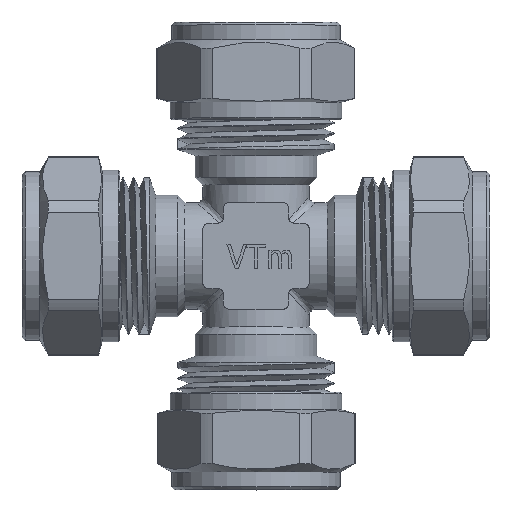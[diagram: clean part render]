
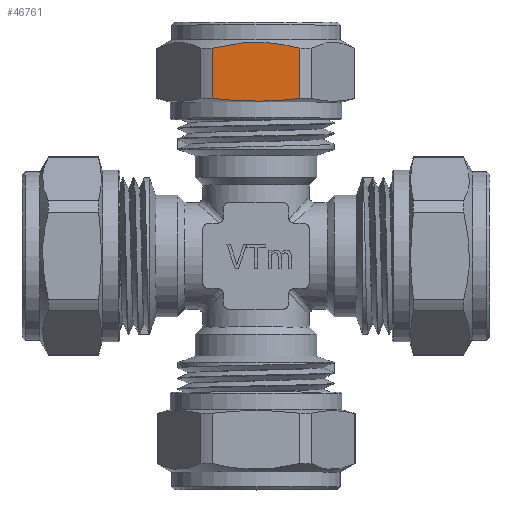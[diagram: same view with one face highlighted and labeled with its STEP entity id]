
A CAD part, top view. The second image highlights one B-rep face of the part: STEP entity #46761.
In plain terms, the highlighted planar face has unit normal (0, 0, 1).
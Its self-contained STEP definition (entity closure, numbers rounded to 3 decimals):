
#179=(
BOUNDED_CURVE()
B_SPLINE_CURVE(2,(#93856,#93857,#93858),.UNSPECIFIED.,.F.,.F.)
B_SPLINE_CURVE_WITH_KNOTS((3,3),(0.,1.489),.UNSPECIFIED.)
CURVE()
GEOMETRIC_REPRESENTATION_ITEM()
RATIONAL_B_SPLINE_CURVE((1.,1.114,1.))
REPRESENTATION_ITEM('')
);
#180=(
BOUNDED_CURVE()
B_SPLINE_CURVE(2,(#93862,#93863,#93864),.UNSPECIFIED.,.F.,.F.)
B_SPLINE_CURVE_WITH_KNOTS((3,3),(0.,1.479),.UNSPECIFIED.)
CURVE()
GEOMETRIC_REPRESENTATION_ITEM()
RATIONAL_B_SPLINE_CURVE((1.,1.114,1.))
REPRESENTATION_ITEM('')
);
#878=PLANE('',#48708);
#4221=FACE_OUTER_BOUND('',#6917,.T.);
#6917=EDGE_LOOP('',(#39155,#39156,#39157,#39158));
#14103=LINE('',#93860,#17207);
#14104=LINE('',#93865,#17208);
#17207=VECTOR('',#54128,10.);
#17208=VECTOR('',#54129,10.);
#21320=VERTEX_POINT('',#93854);
#21321=VERTEX_POINT('',#93855);
#21322=VERTEX_POINT('',#93859);
#21323=VERTEX_POINT('',#93861);
#27700=EDGE_CURVE('',#21320,#21321,#179,.T.);
#27701=EDGE_CURVE('',#21322,#21320,#14103,.T.);
#27702=EDGE_CURVE('',#21323,#21322,#180,.T.);
#27703=EDGE_CURVE('',#21321,#21323,#14104,.T.);
#39155=ORIENTED_EDGE('',*,*,#27700,.F.);
#39156=ORIENTED_EDGE('',*,*,#27701,.F.);
#39157=ORIENTED_EDGE('',*,*,#27702,.F.);
#39158=ORIENTED_EDGE('',*,*,#27703,.F.);
#46761=ADVANCED_FACE('',(#4221),#878,.F.);
#48708=AXIS2_PLACEMENT_3D('',#93853,#54126,#54127);
#54126=DIRECTION('center_axis',(0.,0.,
-1.));
#54127=DIRECTION('ref_axis',(1.,0.,0.));
#54128=DIRECTION('',(0.,1.,0.));
#54129=DIRECTION('',(0.,-1.,0.));
#93853=CARTESIAN_POINT('Origin',(-7.454,39.481,15.));
#93854=CARTESIAN_POINT('',(-7.38,35.057,15.));
#93855=CARTESIAN_POINT('',(7.38,35.057,15.));
#93856=CARTESIAN_POINT('Ctrl Pts',(-7.38,35.057,15.));
#93857=CARTESIAN_POINT('Ctrl Pts',(0.,36.938,
15.));
#93858=CARTESIAN_POINT('Ctrl Pts',(7.38,35.057,15.));
#93859=CARTESIAN_POINT('',(-7.38,26.575,15.));
#93860=CARTESIAN_POINT('',(-7.38,30.816,15.));
#93861=CARTESIAN_POINT('',(7.38,26.575,15.));
#93862=CARTESIAN_POINT('Ctrl Pts',(7.38,26.575,15.));
#93863=CARTESIAN_POINT('Ctrl Pts',(0.,25.702,
15.));
#93864=CARTESIAN_POINT('Ctrl Pts',(-7.38,26.575,15.));
#93865=CARTESIAN_POINT('',(7.38,30.816,15.));
